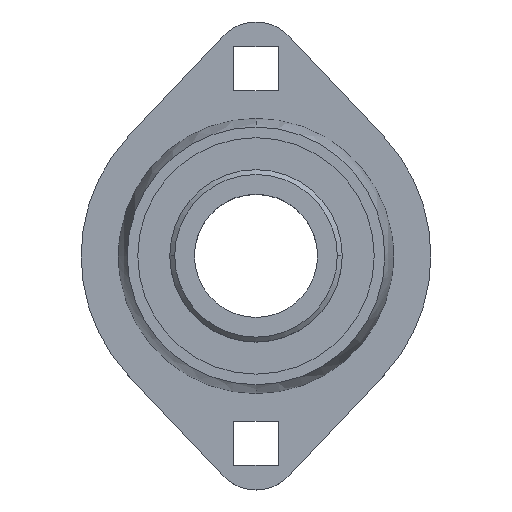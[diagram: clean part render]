
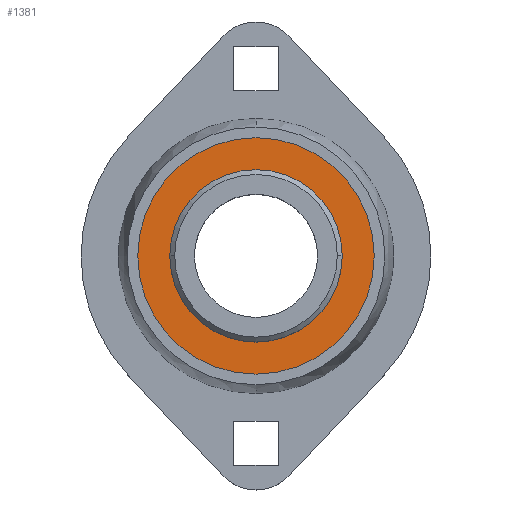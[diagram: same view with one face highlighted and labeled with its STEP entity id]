
A CAD part, top view. The second image highlights one B-rep face of the part: STEP entity #1381.
In plain terms, the highlighted planar face has unit normal (0, 0, 1).
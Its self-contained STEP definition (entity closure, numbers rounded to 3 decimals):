
#40 = CARTESIAN_POINT ( 'NONE',  ( 0., 0., 7.5 ) ) ;
#96 = CARTESIAN_POINT ( 'NONE',  ( 0., 0., 7.5 ) ) ;
#165 = CARTESIAN_POINT ( 'NONE',  ( 0., 0., 7.5 ) ) ;
#178 = CARTESIAN_POINT ( 'NONE',  ( 0., 0., 7.5 ) ) ;
#181 = DIRECTION ( 'NONE',  ( -1., 0., 0. ) ) ;
#190 = DIRECTION ( 'NONE',  ( 0., 0., -1. ) ) ;
#193 = DIRECTION ( 'NONE',  ( 0., 0., -1. ) ) ;
#281 = DIRECTION ( 'NONE',  ( 0., 0., -1. ) ) ;
#284 = DIRECTION ( 'NONE',  ( -1., 0., 0. ) ) ;
#306 = DIRECTION ( 'NONE',  ( 0., 0., -1. ) ) ;
#321 = DIRECTION ( 'NONE',  ( -1., 0., 0. ) ) ;
#328 = DIRECTION ( 'NONE',  ( -1., 0., 0. ) ) ;
#378 = EDGE_LOOP ( 'NONE', ( #587, #632 ) ) ;
#429 = VERTEX_POINT ( 'NONE', #1105 ) ;
#431 = ORIENTED_EDGE ( 'NONE', *, *, #2012, .T. ) ;
#521 = VERTEX_POINT ( 'NONE', #877 ) ;
#550 = VERTEX_POINT ( 'NONE', #1057 ) ;
#587 = ORIENTED_EDGE ( 'NONE', *, *, #1914, .F. ) ;
#632 = ORIENTED_EDGE ( 'NONE', *, *, #1874, .F. ) ;
#645 = EDGE_LOOP ( 'NONE', ( #724, #431 ) ) ;
#724 = ORIENTED_EDGE ( 'NONE', *, *, #1922, .T. ) ;
#791 = VERTEX_POINT ( 'NONE', #1120 ) ;
#877 = CARTESIAN_POINT ( 'NONE',  ( 17.5, 0., 7.5 ) ) ;
#1006 = CARTESIAN_POINT ( 'NONE',  ( 0., 17.5, 7.5 ) ) ;
#1037 = DIRECTION ( 'NONE',  ( 0., 0., 1. ) ) ;
#1057 = CARTESIAN_POINT ( 'NONE',  ( 0., 24.895, 7.5 ) ) ;
#1105 = CARTESIAN_POINT ( 'NONE',  ( 0., -24.895, 7.5 ) ) ;
#1117 = PLANE ( 'NONE',  #1968 ) ;
#1120 = CARTESIAN_POINT ( 'NONE',  ( -17.5, 0., 7.5 ) ) ;
#1219 = DIRECTION ( 'NONE',  ( 1., 0., 0. ) ) ;
#1279 = AXIS2_PLACEMENT_3D ( 'NONE', #178, #306, #321 ) ;
#1329 = AXIS2_PLACEMENT_3D ( 'NONE', #96, #190, #284 ) ;
#1336 = AXIS2_PLACEMENT_3D ( 'NONE', #40, #281, #181 ) ;
#1340 = AXIS2_PLACEMENT_3D ( 'NONE', #165, #193, #328 ) ;
#1381 = ADVANCED_FACE ( 'NONE', ( #1756, #1619 ), #1117, .T. ) ;
#1492 = CIRCLE ( 'NONE', #1279, 17.5 ) ;
#1612 = CIRCLE ( 'NONE', #1329, 17.5 ) ;
#1619 = FACE_OUTER_BOUND ( 'NONE', #378, .T. ) ;
#1638 = CIRCLE ( 'NONE', #1340, 24.895 ) ;
#1649 = CIRCLE ( 'NONE', #1336, 24.895 ) ;
#1756 = FACE_BOUND ( 'NONE', #645, .T. ) ;
#1874 = EDGE_CURVE ( 'NONE', #429, #550, #1649, .T. ) ;
#1914 = EDGE_CURVE ( 'NONE', #550, #429, #1638, .T. ) ;
#1922 = EDGE_CURVE ( 'NONE', #791, #521, #1612, .T. ) ;
#1968 = AXIS2_PLACEMENT_3D ( 'NONE', #1006, #1037, #1219 ) ;
#2012 = EDGE_CURVE ( 'NONE', #521, #791, #1492, .T. ) ;
